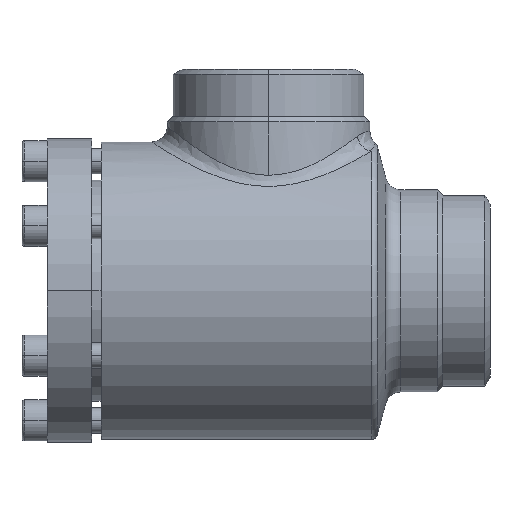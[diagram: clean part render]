
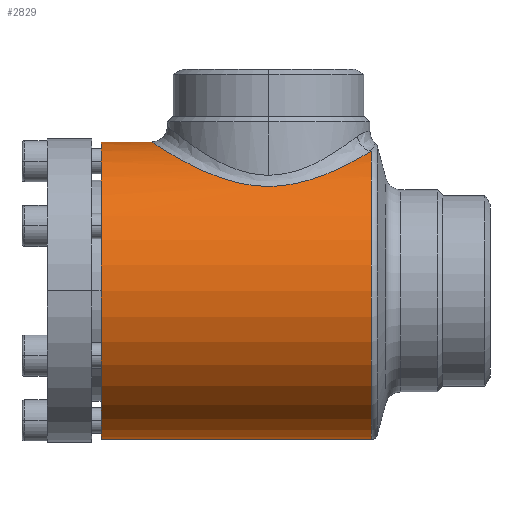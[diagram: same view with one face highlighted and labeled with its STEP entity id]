
A CAD part, left-side view. The second image highlights one B-rep face of the part: STEP entity #2829.
In plain terms, the highlighted cylindrical face has radius 47 mm (diameter 94 mm), a partial arc.
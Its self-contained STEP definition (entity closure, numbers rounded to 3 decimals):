
#2609 = EDGE_LOOP ( 'NONE', ( #6208, #5736, #4360, #10303, #10274 ) ) ;
#2829 = ADVANCED_FACE ( 'NONE', ( #8084 ), #8085, .T. ) ;
#3370 = VERTEX_POINT ( 'NONE', #6816 ) ;
#4023 = EDGE_CURVE ( 'NONE', #4986, #3370, #7366, .T. ) ;
#4360 = ORIENTED_EDGE ( 'NONE', *, *, #4023, .T. ) ;
#4986 = VERTEX_POINT ( 'NONE', #6178 ) ;
#5401 = EDGE_CURVE ( 'NONE', #10313, #4986, #6533, .T. ) ;
#5736 = ORIENTED_EDGE ( 'NONE', *, *, #5401, .T. ) ;
#5789 = VERTEX_POINT ( 'NONE', #7026 ) ;
#5989 = EDGE_CURVE ( 'NONE', #10313, #5789, #7200, .T. ) ;
#6178 = CARTESIAN_POINT ( 'NONE',  ( -16.073, -85.446, 44.166 ) ) ;
#6208 = ORIENTED_EDGE ( 'NONE', *, *, #5989, .F. ) ;
#6533 = CIRCLE ( 'NONE', #6534, 47. ) ;
#6534 = AXIS2_PLACEMENT_3D ( 'NONE', #6535, #6536, #6537 ) ;
#6535 = CARTESIAN_POINT ( 'NONE',  ( 0., -85.446, 0. ) ) ;
#6536 = DIRECTION ( 'NONE',  ( 0., 1., 0. ) ) ;
#6537 = DIRECTION ( 'NONE',  ( 0., 0., -1. ) ) ;
#6747 = CARTESIAN_POINT ( 'NONE',  ( 0., 0., 47. ) ) ;
#6816 = CARTESIAN_POINT ( 'NONE',  ( 0., -16., 47. ) ) ;
#6843 = CARTESIAN_POINT ( 'NONE',  ( 0., -85.446, -47. ) ) ;
#7026 = CARTESIAN_POINT ( 'NONE',  ( 0., 0., -47. ) ) ;
#7200 = LINE ( 'NONE', #7202, #7203 ) ;
#7202 = CARTESIAN_POINT ( 'NONE',  ( 0., -91., -47. ) ) ;
#7203 = VECTOR ( 'NONE', #7204, 1000. ) ;
#7204 = DIRECTION ( 'NONE',  ( 0., 1., 0. ) ) ;
#7366 = B_SPLINE_CURVE_WITH_KNOTS ( 'NONE', 3,
 ( #7367, #7368, #7371, #7372, #7373, #7374, #7375, #7376, #7377, #7378, #7379, #7380, #7381, #7382, #7383, #7384, #7385, #7386, #7388, #7389, #7390, #7391, #7392, #7393, #7394, #7395, #7396, #7397, #7398, #7399, #7400, #7401, #7402, #7403, #7404, #7405, #7406, #7407, #7408, #7409, #7410, #7411, #7412, #7413, #7414, #7415, #7416, #7417, #7418, #7419, #7420, #7421, #7422, #7423, #7424, #7425, #7426, #7427, #7428, #7429, #7430, #7431 ),
 .UNSPECIFIED., .F., .F.,
 ( 4, 2, 2, 2, 2, 2, 2, 2, 2, 2, 2, 2, 2, 2, 2, 2, 2, 2, 2, 2, 2, 2, 2, 2, 2, 2, 2, 2, 2, 2, 4 ),
 ( 0.017, 0.023, 0.026, 0.029, 0.035, 0.039, 0.04, 0.042, 0.048, 0.051, 0.052, 0.054, 0.06, 0.063, 0.066, 0.069, 0.072, 0.078, 0.081, 0.083, 0.084, 0.09, 0.093, 0.095, 0.096, 0.103, 0.106, 0.107, 0.109, 0.112, 0.115 ),
 .UNSPECIFIED. ) ;
#7367 = CARTESIAN_POINT ( 'NONE',  ( -16.073, -85.446, 44.166 ) ) ;
#7368 = CARTESIAN_POINT ( 'NONE',  ( -17.749, -84.43, 43.556 ) ) ;
#7371 = CARTESIAN_POINT ( 'NONE',  ( -19.293, -83.29, 42.887 ) ) ;
#7372 = CARTESIAN_POINT ( 'NONE',  ( -21.444, -81.41, 41.831 ) ) ;
#7373 = CARTESIAN_POINT ( 'NONE',  ( -22.133, -80.755, 41.469 ) ) ;
#7374 = CARTESIAN_POINT ( 'NONE',  ( -23.459, -79.389, 40.734 ) ) ;
#7375 = CARTESIAN_POINT ( 'NONE',  ( -24.096, -78.676, 40.359 ) ) ;
#7376 = CARTESIAN_POINT ( 'NONE',  ( -25.907, -76.48, 39.24 ) ) ;
#7377 = CARTESIAN_POINT ( 'NONE',  ( -26.989, -74.936, 38.497 ) ) ;
#7378 = CARTESIAN_POINT ( 'NONE',  ( -28.44, -72.491, 37.424 ) ) ;
#7379 = CARTESIAN_POINT ( 'NONE',  ( -28.894, -71.655, 37.073 ) ) ;
#7380 = CARTESIAN_POINT ( 'NONE',  ( -29.533, -70.366, 36.563 ) ) ;
#7381 = CARTESIAN_POINT ( 'NONE',  ( -29.739, -69.93, 36.396 ) ) ;
#7382 = CARTESIAN_POINT ( 'NONE',  ( -30.137, -69.047, 36.067 ) ) ;
#7383 = CARTESIAN_POINT ( 'NONE',  ( -30.328, -68.599, 35.906 ) ) ;
#7384 = CARTESIAN_POINT ( 'NONE',  ( -31.243, -66.344, 35.126 ) ) ;
#7385 = CARTESIAN_POINT ( 'NONE',  ( -31.842, -64.482, 34.576 ) ) ;
#7386 = CARTESIAN_POINT ( 'NONE',  ( -32.541, -61.591, 33.914 ) ) ;
#7388 = CARTESIAN_POINT ( 'NONE',  ( -32.74, -60.61, 33.721 ) ) ;
#7389 = CARTESIAN_POINT ( 'NONE',  ( -32.986, -59.111, 33.48 ) ) ;
#7390 = CARTESIAN_POINT ( 'NONE',  ( -33.059, -58.608, 33.408 ) ) ;
#7391 = CARTESIAN_POINT ( 'NONE',  ( -33.186, -57.603, 33.282 ) ) ;
#7392 = CARTESIAN_POINT ( 'NONE',  ( -33.239, -57.1, 33.229 ) ) ;
#7393 = CARTESIAN_POINT ( 'NONE',  ( -33.462, -54.583, 33.006 ) ) ;
#7394 = CARTESIAN_POINT ( 'NONE',  ( -33.49, -52.562, 32.976 ) ) ;
#7395 = CARTESIAN_POINT ( 'NONE',  ( -33.307, -49.52, 33.161 ) ) ;
#7396 = CARTESIAN_POINT ( 'NONE',  ( -33.207, -48.498, 33.262 ) ) ;
#7397 = CARTESIAN_POINT ( 'NONE',  ( -32.933, -46.49, 33.532 ) ) ;
#7398 = CARTESIAN_POINT ( 'NONE',  ( -32.761, -45.501, 33.702 ) ) ;
#7399 = CARTESIAN_POINT ( 'NONE',  ( -32.346, -43.55, 34.1 ) ) ;
#7400 = CARTESIAN_POINT ( 'NONE',  ( -32.103, -42.587, 34.33 ) ) ;
#7401 = CARTESIAN_POINT ( 'NONE',  ( -31.549, -40.688, 34.839 ) ) ;
#7402 = CARTESIAN_POINT ( 'NONE',  ( -31.237, -39.749, 35.121 ) ) ;
#7403 = CARTESIAN_POINT ( 'NONE',  ( -30.211, -37.009, 36.016 ) ) ;
#7404 = CARTESIAN_POINT ( 'NONE',  ( -29.406, -35.272, 36.683 ) ) ;
#7405 = CARTESIAN_POINT ( 'NONE',  ( -28.021, -32.781, 37.738 ) ) ;
#7406 = CARTESIAN_POINT ( 'NONE',  ( -27.529, -31.97, 38.099 ) ) ;
#7407 = CARTESIAN_POINT ( 'NONE',  ( -26.744, -30.781, 38.65 ) ) ;
#7408 = CARTESIAN_POINT ( 'NONE',  ( -26.475, -30.389, 38.835 ) ) ;
#7409 = CARTESIAN_POINT ( 'NONE',  ( -25.92, -29.615, 39.208 ) ) ;
#7410 = CARTESIAN_POINT ( 'NONE',  ( -25.634, -29.233, 39.396 ) ) ;
#7411 = CARTESIAN_POINT ( 'NONE',  ( -24.175, -27.357, 40.33 ) ) ;
#7412 = CARTESIAN_POINT ( 'NONE',  ( -22.902, -25.964, 41.072 ) ) ;
#7413 = CARTESIAN_POINT ( 'NONE',  ( -20.822, -24.029, 42.143 ) ) ;
#7414 = CARTESIAN_POINT ( 'NONE',  ( -20.099, -23.411, 42.494 ) ) ;
#7415 = CARTESIAN_POINT ( 'NONE',  ( -18.969, -22.523, 43.004 ) ) ;
#7416 = CARTESIAN_POINT ( 'NONE',  ( -18.584, -22.235, 43.172 ) ) ;
#7417 = CARTESIAN_POINT ( 'NONE',  ( -17.798, -21.671, 43.502 ) ) ;
#7418 = CARTESIAN_POINT ( 'NONE',  ( -17.396, -21.396, 43.664 ) ) ;
#7419 = CARTESIAN_POINT ( 'NONE',  ( -15.356, -20.064, 44.455 ) ) ;
#7420 = CARTESIAN_POINT ( 'NONE',  ( -13.635, -19.147, 45.018 ) ) ;
#7421 = CARTESIAN_POINT ( 'NONE',  ( -10.906, -18.006, 45.727 ) ) ;
#7422 = CARTESIAN_POINT ( 'NONE',  ( -9.972, -17.666, 45.94 ) ) ;
#7423 = CARTESIAN_POINT ( 'NONE',  ( -8.53, -17.219, 46.222 ) ) ;
#7424 = CARTESIAN_POINT ( 'NONE',  ( -8.041, -17.081, 46.31 ) ) ;
#7425 = CARTESIAN_POINT ( 'NONE',  ( -7.058, -16.829, 46.47 ) ) ;
#7426 = CARTESIAN_POINT ( 'NONE',  ( -6.563, -16.715, 46.542 ) ) ;
#7427 = CARTESIAN_POINT ( 'NONE',  ( -5.066, -16.41, 46.737 ) ) ;
#7428 = CARTESIAN_POINT ( 'NONE',  ( -4.049, -16.255, 46.836 ) ) ;
#7429 = CARTESIAN_POINT ( 'NONE',  ( -2.024, -16.051, 46.967 ) ) ;
#7430 = CARTESIAN_POINT ( 'NONE',  ( -1.011, -16., 47. ) ) ;
#7431 = CARTESIAN_POINT ( 'NONE',  ( 0., -16., 47. ) ) ;
#7641 = VERTEX_POINT ( 'NONE', #6747 ) ;
#8084 = FACE_OUTER_BOUND ( 'NONE', #2609, .T. ) ;
#8085 = CYLINDRICAL_SURFACE ( 'NONE', #8086, 47. ) ;
#8086 = AXIS2_PLACEMENT_3D ( 'NONE', #8087, #8088, #8089 ) ;
#8087 = CARTESIAN_POINT ( 'NONE',  ( 0., -91., 0. ) ) ;
#8088 = DIRECTION ( 'NONE',  ( 0., 1., 0. ) ) ;
#8089 = DIRECTION ( 'NONE',  ( 0., 0., 1. ) ) ;
#10256 = EDGE_CURVE ( 'NONE', #5789, #7641, #10562, .T. ) ;
#10265 = EDGE_CURVE ( 'NONE', #3370, #7641, #10657, .T. ) ;
#10274 = ORIENTED_EDGE ( 'NONE', *, *, #10256, .F. ) ;
#10303 = ORIENTED_EDGE ( 'NONE', *, *, #10265, .T. ) ;
#10313 = VERTEX_POINT ( 'NONE', #6843 ) ;
#10562 = CIRCLE ( 'NONE', #10563, 47. ) ;
#10563 = AXIS2_PLACEMENT_3D ( 'NONE', #10564, #10565, #10566 ) ;
#10564 = CARTESIAN_POINT ( 'NONE',  ( 0., 0., 0. ) ) ;
#10565 = DIRECTION ( 'NONE',  ( 0., 1., 0. ) ) ;
#10566 = DIRECTION ( 'NONE',  ( 0., 0., 1. ) ) ;
#10657 = LINE ( 'NONE', #10658, #10659 ) ;
#10658 = CARTESIAN_POINT ( 'NONE',  ( 0., -91., 47. ) ) ;
#10659 = VECTOR ( 'NONE', #10660, 1000. ) ;
#10660 = DIRECTION ( 'NONE',  ( 0., 1., 0. ) ) ;
